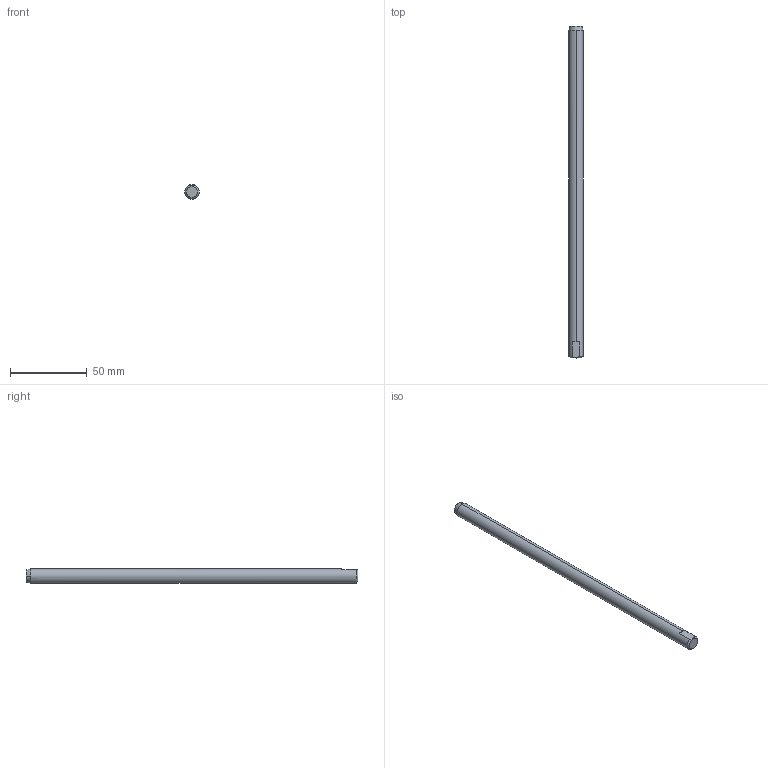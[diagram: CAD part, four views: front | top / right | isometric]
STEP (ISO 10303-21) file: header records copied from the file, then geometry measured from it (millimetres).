
FILE_DESCRIPTION (( 'STEP AP214' ), '1' );
FILE_NAME ('シャフト.STEP', '2025-08-09T00:47:36', ( '' ), ( '' ), 'SwSTEP 2.0', 'SolidWorks 2023', '' );
FILE_SCHEMA (( 'AUTOMOTIVE_DESIGN' ));
Length unit declared in the file: millimetre
Products named in the file (1): シャフト
Bounding box: 9.5 x 216 x 9.5 mm (x, y, z)
Volume: 15237.2 mm3; surface area: 6541.6 mm2
Topology: 1 solids, 1 shells, 10 faces, 23 edges, 15 vertices
Faces by surface type: cone 4, plane 4, cylinder 2
Entity records: 324 total; most frequent: CARTESIAN_POINT 63, DIRECTION 55, ORIENTED_EDGE 46, EDGE_CURVE 23, AXIS2_PLACEMENT_3D 23, VERTEX_POINT 15, CIRCLE 12, ADVANCED_FACE 10
